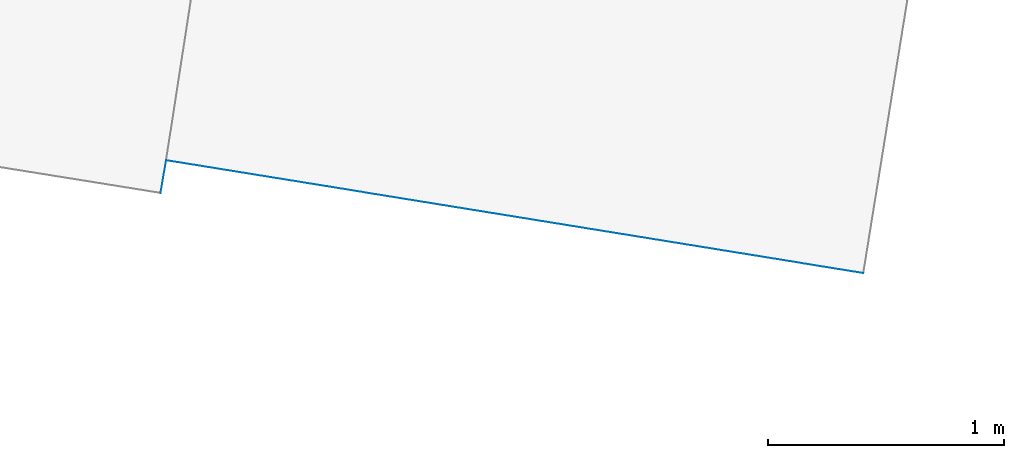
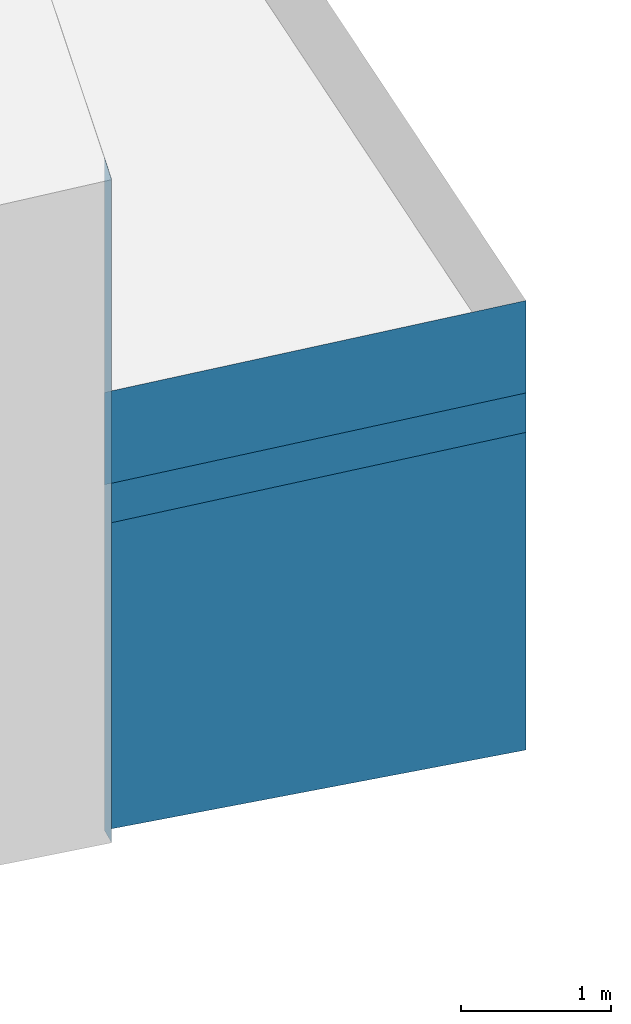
# Not in any storey, part 25 of 57: 5 walls.
"""IFC4 building model written with IfcOpenShell, lengths in metres."""

from ifc_helpers import new_model, entity, si_unit, converted_unit, frame, origin, place, context, subcontext, project, spatial, face_set, surface_model, element, save


model = new_model("IFC4")

# Units and contexts
model_context = context("Model", 3, precision=1e-05, world=origin())
body_context = subcontext(model_context, "Body", "Model", "MODEL_VIEW")
ifc_project = project(units=[converted_unit("PLANEANGLEUNIT", "DEGREE", entity("IfcRatioMeasure", 0.0174532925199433), si_unit("PLANEANGLEUNIT", "RADIAN"), dimensions=[0, 0, 0, 0, 0, 0, 0]), si_unit("AREAUNIT", "SQUARE_METRE"), si_unit("LENGTHUNIT", "METRE")], contexts=[model_context])

# Site, building
site_placement = place(None, origin())
site = spatial("IfcSite", under=ifc_project, at=site_placement, Name="_site")
building_1_placement = place(site_placement, origin())
building_1 = spatial("IfcBuilding", under=site, at=building_1_placement, Name="_building")

# Walls
wall_1_placement = place(building_1_placement, origin())
element("IfcWall", 1, at=wall_1_placement, inside=building_1, Name="Wall", PredefinedType="NOTDEFINED", context=body_context, shape_type="SurfaceModel", body=[
    surface_model("IfcFaceBasedSurfaceModel", [(216.233, 83.505, 109.6), (213.273, 83.984, 109.6), (213.273, 83.984, 109.28), (216.233, 83.505, 109.28)], [face_set([[[0, 1, 2, 3]]])]),
])
wall_2_placement = place(building_1_placement, origin())
element("IfcWall", 2, at=wall_2_placement, inside=building_1, Name="Wall", PredefinedType="NOTDEFINED", context=body_context, shape_type="SurfaceModel", body=[
    surface_model("IfcFaceBasedSurfaceModel", [(216.233, 83.505, 109.28), (213.273, 83.984, 109.28), (213.273, 83.984, 106.797), (216.233, 83.505, 106.702)], [face_set([[[0, 1, 2, 3]]])]),
])
for number, where, name in (
    (3, (0.0, 0.0, 0.0), "Wall"),
    (4, (0.0, 0.0, 0.0), "Wall"),
):
    element("IfcWall", number, at=place(building_1_placement, frame(where)), inside=building_1, Name=name, PredefinedType="NOTDEFINED", context=body_context, shape_type="SurfaceModel", body=[
        surface_model("IfcFaceBasedSurfaceModel", [(213.273, 83.984, 109.6), (216.233, 83.505, 109.6), (216.233, 83.505, 110.35), (213.273, 83.984, 110.35)], [face_set([[[0, 1, 2, 3]]])]),
    ])

# Building
building_2_placement = place(site_placement, origin())
building_2 = spatial("IfcBuilding", under=site, at=building_2_placement, Name="_building")

# Wall
wall_3_placement = place(building_2_placement, origin())
element("IfcWall", 5, at=wall_3_placement, inside=building_2, Name="Wall", PredefinedType="NOTDEFINED", context=body_context, shape_type="SurfaceModel", body=[
    surface_model("IfcFaceBasedSurfaceModel", [(213.273, 83.984, 112.26), (213.249, 83.845, 112.17), (213.249, 83.845, 106.787), (213.273, 83.984, 106.797)], [face_set([[[0, 1, 2, 3]]])]),
])

save(model, "model.ifc")
